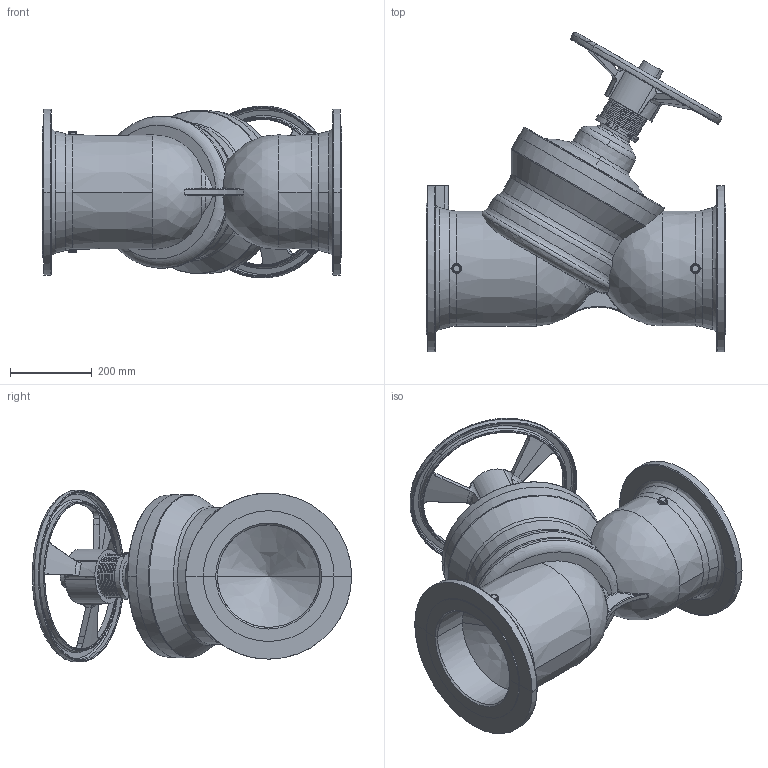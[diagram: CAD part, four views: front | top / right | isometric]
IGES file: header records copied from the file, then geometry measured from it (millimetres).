
Global section: file name: No Iges File Name specified; native system: AutoDesk Inventor R12.0; preprocessor: AutoDesk Inventor Iges Exporter R12.0; date: 20110301.123245; units: millimetre
Bounding box: 730 x 778.85 x 419.31 mm (x, y, z)
Volume: 53061155.7 mm3; surface area: 2012180.5 mm2
Topology: 1 solids, 3 shells, 899 faces, 2391 edges, 1570 vertices
Faces by surface type: bspline 321, plane 301, cylinder 94, revolution 88, cone 52, torus 43
Full cylindrical faces by diameter (mm): 319 x1, 319.004 x1
